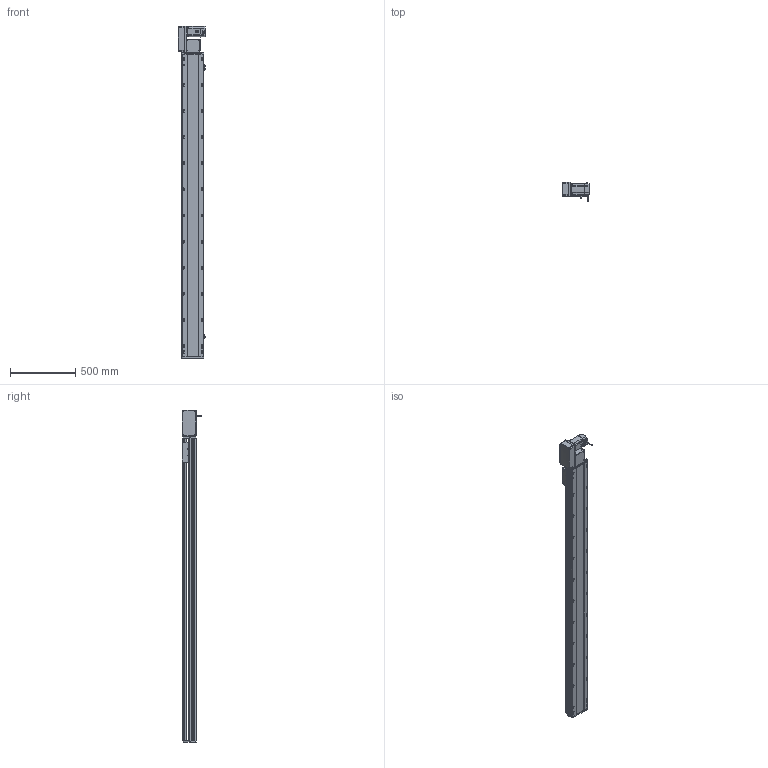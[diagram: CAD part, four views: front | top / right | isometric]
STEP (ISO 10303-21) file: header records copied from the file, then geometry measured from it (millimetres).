
FILE_DESCRIPTION (( 'STEP AP214' ), '1' );
FILE_NAME ('RTB17S-XX-2050-L-M75-C4.STEP', '2025-12-12T00:19:16', ( '' ), ( '' ), 'SwSTEP 2.0', 'SolidWorks 2018', '' );
FILE_SCHEMA (( 'AUTOMOTIVE_DESIGN' ));
Length unit declared in the file: millimetre
Products named in the file (15): RTB17-R-011菁釱^RTB17S-XX-XX-L-M75-C4; RTB22S-GY-008-M75--萇儂啣^RTB17S-L-々湍釱蚾饜-750W_RTB17S-XX-XX-L-M75-C4; RTB17S-L-007奻裔^RTB17S-XX-XX-L-M75-C4; RMP17S-L-014-T20-P75--々湍釱^RTB17S-L-々湍釱蚾饜-750W_RTB17S-XX-XX-L-M75-C4; RTB17S-L-004-賑釱^RTB17S-賑釱_RTB17S-XX-XX-L-M75-C4; EE672^RTB17S-XX-XX-L-M75-C4; RTB17S-L-001-耜醱啣^RTB17S-XX-XX-L-M75-C4; RTH13-BL-012覜茼え俋离^RTB17S-賑釱_RTB17S-XX-XX-L-M75-C4; RTB22S-GY-005P^RTB17S-L-々湍釱蚾饜-750W_RTB17S-XX-XX-L-M75-C4; RTB17S-L-々湍釱蚾饜-750W^RTB17S-XX-XX-L-M75-C4; RTB17S-賑釱^RTB17S-XX-XX-L-M75-C4; RTB22S-GY-017P^RTB17S-L-々湍釱蚾饜-750W_RTB17S-XX-XX-L-M75-C4; RTB22S-GY-018P^RTB17S-L-々湍釱蚾饜-750W_RTB17S-XX-XX-L-M75-C4; RTB17S-XX-2050-L-M75-C4; 750W萇儂^RTB17S-XX-XX-L-M75-C4
Assembly tree (17 placements, depth 3):
  RTB17S-XX-2050-L-M75-C4
    RTB17-R-011菁釱^RTB17S-XX-XX-L-M75-C4
    EE672^RTB17S-XX-XX-L-M75-C4  x3
    RTB17S-L-001-耜醱啣^RTB17S-XX-XX-L-M75-C4
    RTB17S-賑釱^RTB17S-XX-XX-L-M75-C4
      RTB17S-L-004-賑釱^RTB17S-賑釱_RTB17S-XX-XX-L-M75-C4
      RTH13-BL-012覜茼え俋离^RTB17S-賑釱_RTB17S-XX-XX-L-M75-C4
    RTB17S-L-007奻裔^RTB17S-XX-XX-L-M75-C4
    750W萇儂^RTB17S-XX-XX-L-M75-C4
    RTB17S-L-々湍釱蚾饜-750W^RTB17S-XX-XX-L-M75-C4
      RMP17S-L-014-T20-P75--々湍釱^RTB17S-L-々湍釱蚾饜-750W_RTB17S-XX-XX-L-M75-C4
      RTB22S-GY-005P^RTB17S-L-々湍釱蚾饜-750W_RTB17S-XX-XX-L-M75-C4
      RTB22S-GY-017P^RTB17S-L-々湍釱蚾饜-750W_RTB17S-XX-XX-L-M75-C4  x2
      RTB22S-GY-008-M75--萇儂啣^RTB17S-L-々湍釱蚾饜-750W_RTB17S-XX-XX-L-M75-C4
      RTB22S-GY-018P^RTB17S-L-々湍釱蚾饜-750W_RTB17S-XX-XX-L-M75-C4
Bounding box: 210.4 x 152.7 x 2549 mm (x, y, z)
Volume: 18759613.6 mm3; surface area: 3362463.4 mm2
Topology: 17 solids, 17 shells, 2185 faces, 6106 edges, 3950 vertices
Faces by surface type: plane 982, cylinder 787, bspline 294, cone 110, sphere 8, torus 4
Entity records: 62710 total; most frequent: CARTESIAN_POINT 18570, ORIENTED_EDGE 9056, DIRECTION 8402, EDGE_CURVE 4528, AXIS2_PLACEMENT_3D 2970, VERTEX_POINT 2954, VECTOR 2462, LINE 2462
